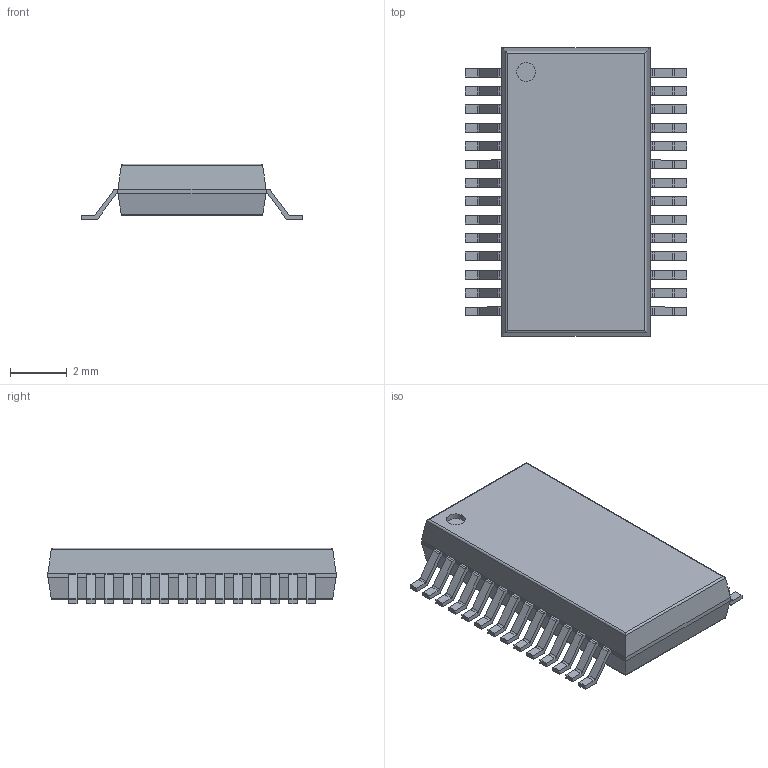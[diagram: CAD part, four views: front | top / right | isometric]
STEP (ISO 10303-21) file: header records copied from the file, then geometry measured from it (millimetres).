
FILE_DESCRIPTION(('FreeCAD Model'),'2;1');
FILE_NAME('/var/www/3D/0T/159787.3.1.stp','2020-09-29T13:18:20',( 'Author'),(''),'Open CASCADE STEP processor 6.9','FreeCAD','Unknown' );
FILE_SCHEMA(('AUTOMOTIVE_DESIGN { 1 0 10303 214 1 1 1 1 }'));
Length unit declared in the file: millimetre
Products named in the file (3): ASSEMBLY; Body; PinsArrayLR
Assembly tree (2 placements, depth 2):
  ASSEMBLY
    Body
    PinsArrayLR
Bounding box: 7.84 x 10.2 x 1.98 mm (x, y, z)
Volume: 96.9 mm3; surface area: 203.8 mm2
Topology: 29 solids, 29 shells, 388 faces, 971 edges, 642 vertices
Faces by surface type: plane 295, cylinder 93
Full cylindrical faces by diameter (mm): 0.656 x1
Entity records: 24651 total; most frequent: CARTESIAN_POINT 4638, DIRECTION 3713, LINE 2489, VECTOR 2489, ORIENTED_EDGE 1942, PCURVE 1942, DEFINITIONAL_REPRESENTATION 1942, EDGE_CURVE 971
